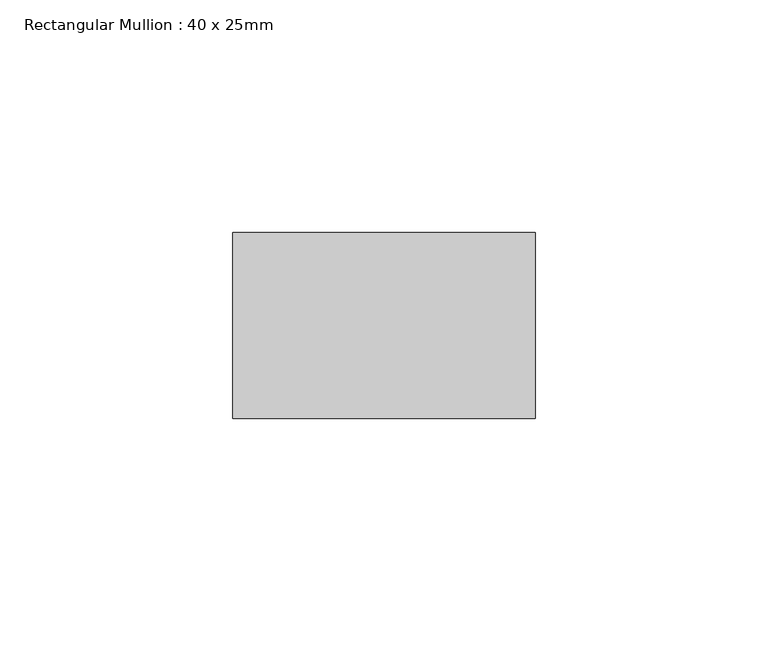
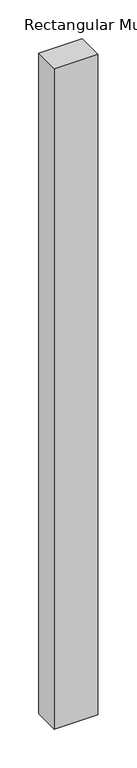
"""IFC4 building model written with IfcOpenShell, lengths in millimetres: member geometry, Rectangular Mullion : 40 x 25mm."""

from ifc_helpers import new_model, si_unit, frame, origin, place, context, project, spatial, polyline, outline, extrude, source, transform, mapped, element, save


def rectangular_mullion_40_x_25mm_c9cd4a02(model_context):
    return source(origin(), model_context, "Body", "SweptSolid", [
        extrude(outline(polyline([(40.0, -20.0), (40.0, -60.0), (-25.0, -60.0), (-25.0, -20.0), (40.0, -20.0)])), frame((0.0, 0.0, -1040.0), z_axis=(0.0, 0.0, 1.0), x_axis=(1.0, 0.0, 0.0)), (0.0, 0.0, 1.0), 1040.0),
    ])


if __name__ == "__main__":
    model = new_model("IFC4")
    model_context = context("Model", 3, world=origin())
    ifc_project = project(units=[si_unit("LENGTHUNIT", "METRE", prefix="MILLI")], contexts=[model_context])
    site = spatial("IfcSite", under=ifc_project)
    building = spatial("IfcBuilding", under=site)
    placement = place(None, origin())
    rectangular_mullion_40_x_25mm_shape = rectangular_mullion_40_x_25mm_c9cd4a02(model_context)
    element("IfcMember", 1, ObjectType="Rectangular Mullion : 40 x 25mm", at=placement, inside=building, context=model_context, shape_type="MappedRepresentation", body=[
        mapped(rectangular_mullion_40_x_25mm_shape, transform((0.0, 0.0, 0.0), x_axis=(1.0, 0.0, 0.0), y_axis=(0.0, 1.0, 0.0), z_axis=(0.0, 0.0, 1.0))),
    ])
    save(model, "model.ifc")
